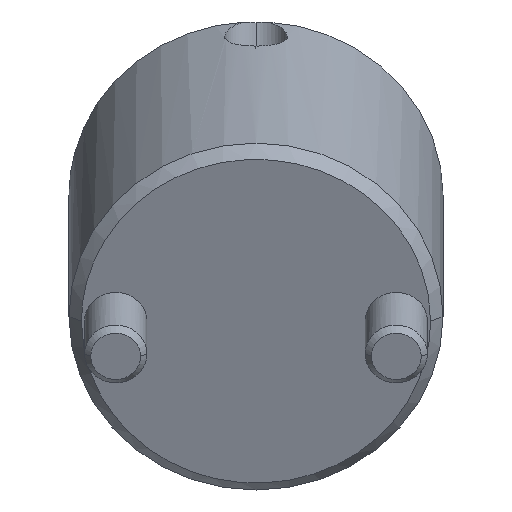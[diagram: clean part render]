
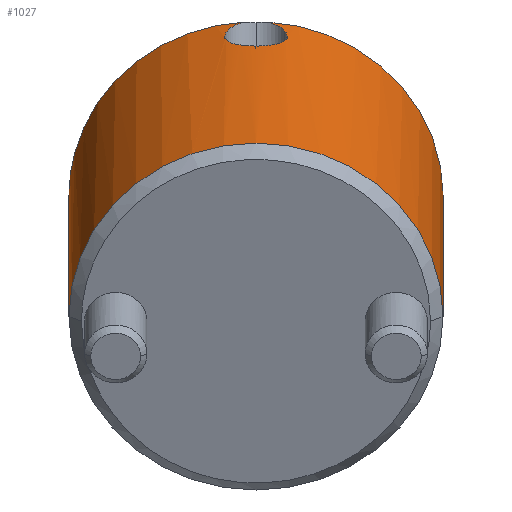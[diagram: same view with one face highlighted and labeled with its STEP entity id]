
A CAD part, front view. The second image highlights one B-rep face of the part: STEP entity #1027.
In plain terms, the highlighted cylindrical face has radius 15 mm (diameter 30 mm), a partial arc.
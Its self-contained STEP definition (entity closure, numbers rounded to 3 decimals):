
#778=CARTESIAN_POINT('Vertex',(0.,15.,1.)) ;
#781=CARTESIAN_POINT('Axis2P3D Location',(0.,0.,1.)) ;
#785=CARTESIAN_POINT('Vertex',(0.,-15.,1.)) ;
#925=CARTESIAN_POINT('Axis2P3D Location',(0.,0.,-1.4)) ;
#931=CARTESIAN_POINT('Control Point',(14.974,-0.881,27.)) ;
#932=CARTESIAN_POINT('Control Point',(14.708,-5.409,27.)) ;
#933=CARTESIAN_POINT('Control Point',(12.734,-9.84,27.)) ;
#934=CARTESIAN_POINT('Control Point',(9.076,-13.29,27.)) ;
#935=CARTESIAN_POINT('Control Point',(4.536,-15.,27.)) ;
#936=CARTESIAN_POINT('Control Point',(0.,-15.,27.)) ;
#937=CARTESIAN_POINT('Vertex',(14.974,-0.881,27.)) ;
#939=CARTESIAN_POINT('Vertex',(0.,-15.,27.)) ;
#942=CARTESIAN_POINT('Line Origine',(0.,-15.,-1.4)) ;
#947=CARTESIAN_POINT('Line Origine',(0.,15.,-1.4)) ;
#951=CARTESIAN_POINT('Vertex',(0.,15.,27.)) ;
#954=CARTESIAN_POINT('Axis2P3D Location',(0.,0.,27.)) ;
#958=CARTESIAN_POINT('Vertex',(14.974,0.881,27.)) ;
#962=CARTESIAN_POINT('Control Point',(14.974,0.881,27.)) ;
#963=CARTESIAN_POINT('Control Point',(14.962,1.094,26.909)) ;
#964=CARTESIAN_POINT('Control Point',(14.946,1.293,26.792)) ;
#965=CARTESIAN_POINT('Control Point',(14.928,1.48,26.65)) ;
#966=CARTESIAN_POINT('Control Point',(14.898,1.76,26.386)) ;
#967=CARTESIAN_POINT('Control Point',(14.868,1.991,26.076)) ;
#968=CARTESIAN_POINT('Control Point',(14.856,2.077,25.943)) ;
#969=CARTESIAN_POINT('Control Point',(14.825,2.291,25.554)) ;
#970=CARTESIAN_POINT('Control Point',(14.8,2.443,25.091)) ;
#971=CARTESIAN_POINT('Control Point',(14.789,2.506,24.767)) ;
#972=CARTESIAN_POINT('Control Point',(14.786,2.526,24.269)) ;
#973=CARTESIAN_POINT('Control Point',(14.801,2.437,23.774)) ;
#974=CARTESIAN_POINT('Control Point',(14.807,2.398,23.62)) ;
#975=CARTESIAN_POINT('Control Point',(14.828,2.27,23.241)) ;
#976=CARTESIAN_POINT('Control Point',(14.856,2.077,22.898)) ;
#977=CARTESIAN_POINT('Control Point',(14.875,1.939,22.708)) ;
#978=CARTESIAN_POINT('Control Point',(14.908,1.679,22.426)) ;
#979=CARTESIAN_POINT('Control Point',(14.938,1.373,22.2)) ;
#980=CARTESIAN_POINT('Control Point',(14.949,1.244,22.119)) ;
#981=CARTESIAN_POINT('Control Point',(14.973,0.932,21.956)) ;
#982=CARTESIAN_POINT('Control Point',(14.99,0.591,21.851)) ;
#983=CARTESIAN_POINT('Control Point',(14.997,0.393,21.809)) ;
#984=CARTESIAN_POINT('Control Point',(15.,0.197,21.791)) ;
#985=CARTESIAN_POINT('Control Point',(15.,0.,21.791)) ;
#986=CARTESIAN_POINT('Vertex',(15.,0.,21.791)) ;
#990=CARTESIAN_POINT('Control Point',(15.,0.,21.791)) ;
#991=CARTESIAN_POINT('Control Point',(15.,-0.15,21.791)) ;
#992=CARTESIAN_POINT('Control Point',(14.998,-0.299,21.802)) ;
#993=CARTESIAN_POINT('Control Point',(14.994,-0.449,21.825)) ;
#994=CARTESIAN_POINT('Control Point',(14.983,-0.748,21.895)) ;
#995=CARTESIAN_POINT('Control Point',(14.965,-1.033,22.009)) ;
#996=CARTESIAN_POINT('Control Point',(14.955,-1.168,22.077)) ;
#997=CARTESIAN_POINT('Control Point',(14.933,-1.431,22.234)) ;
#998=CARTESIAN_POINT('Control Point',(14.908,-1.666,22.43)) ;
#999=CARTESIAN_POINT('Control Point',(14.895,-1.777,22.537)) ;
#1000=CARTESIAN_POINT('Control Point',(14.869,-1.98,22.769)) ;
#1001=CARTESIAN_POINT('Control Point',(14.846,-2.148,23.031)) ;
#1002=CARTESIAN_POINT('Control Point',(14.835,-2.222,23.168)) ;
#1003=CARTESIAN_POINT('Control Point',(14.815,-2.351,23.46)) ;
#1004=CARTESIAN_POINT('Control Point',(14.801,-2.437,23.771)) ;
#1005=CARTESIAN_POINT('Control Point',(14.796,-2.468,23.929)) ;
#1006=CARTESIAN_POINT('Control Point',(14.787,-2.519,24.344)) ;
#1007=CARTESIAN_POINT('Control Point',(14.791,-2.495,24.752)) ;
#1008=CARTESIAN_POINT('Control Point',(14.798,-2.454,24.994)) ;
#1009=CARTESIAN_POINT('Control Point',(14.816,-2.347,25.392)) ;
#1010=CARTESIAN_POINT('Control Point',(14.84,-2.188,25.741)) ;
#1011=CARTESIAN_POINT('Control Point',(14.851,-2.112,25.883)) ;
#1012=CARTESIAN_POINT('Control Point',(14.883,-1.88,26.252)) ;
#1013=CARTESIAN_POINT('Control Point',(14.917,-1.59,26.562)) ;
#1014=CARTESIAN_POINT('Control Point',(14.94,-1.371,26.745)) ;
#1015=CARTESIAN_POINT('Control Point',(14.959,-1.136,26.891)) ;
#1016=CARTESIAN_POINT('Control Point',(14.974,-0.881,27.)) ;
#782=DIRECTION('Axis2P3D Direction',(0.,0.,1.)) ;
#926=DIRECTION('Axis2P3D Direction',(0.,-0.,1.)) ;
#927=DIRECTION('Axis2P3D XDirection',(0.,-1.,0.)) ;
#943=DIRECTION('Vector Direction',(0.,0.,1.)) ;
#948=DIRECTION('Vector Direction',(0.,0.,1.)) ;
#955=DIRECTION('Axis2P3D Direction',(0.,-0.,1.)) ;
#783=AXIS2_PLACEMENT_3D('Circle Axis2P3D',#781,#782,$) ;
#928=AXIS2_PLACEMENT_3D('Cylinder Axis2P3D',#925,#926,#927) ;
#956=AXIS2_PLACEMENT_3D('Circle Axis2P3D',#954,#955,$) ;
#1019=ORIENTED_EDGE('',*,*,#941,.T.) ;
#1020=ORIENTED_EDGE('',*,*,#946,.T.) ;
#1021=ORIENTED_EDGE('',*,*,#787,.F.) ;
#1022=ORIENTED_EDGE('',*,*,#953,.F.) ;
#1023=ORIENTED_EDGE('',*,*,#960,.T.) ;
#1024=ORIENTED_EDGE('',*,*,#988,.T.) ;
#1025=ORIENTED_EDGE('',*,*,#1017,.T.) ;
#944=VECTOR('Line Direction',#943,1.) ;
#949=VECTOR('Line Direction',#948,1.) ;
#1027=ADVANCED_FACE('MANIFOLD_SOLID_BREP #1143',(#1026),#929,.T.) ;
#930=B_SPLINE_CURVE_WITH_KNOTS('',5,(#931,#932,#933,#934,#935,#936),.UNSPECIFIED.,.F.,.U.,(6,6),(-11.34,11.34),.UNSPECIFIED.) ;
#961=B_SPLINE_CURVE_WITH_KNOTS('',5,(#962,#963,#964,#965,#966,#967,#968,#969,#970,#971,#972,#973,#974,#975,#976,#977,#978,#979,#980,#981,#982,#983,#984,#985),.UNSPECIFIED.,.F.,.U.,(6,3,3,3,3,3,3,6),(0.,1.902,3.194,5.398,6.442,7.984,8.999,10.334),.UNSPECIFIED.) ;
#989=B_SPLINE_CURVE_WITH_KNOTS('',5,(#990,#991,#992,#993,#994,#995,#996,#997,#998,#999,#1000,#1001,#1002,#1003,#1004,#1005,#1006,#1007,#1008,#1009,#1010,#1011,#1012,#1013,#1014,#1015,#1016),.UNSPECIFIED.,.F.,.U.,(6,3,3,3,3,3,3,3,6),(0.,1.024,2.05,3.091,4.127,5.182,6.838,8.081,10.324),.UNSPECIFIED.) ;
#784=CIRCLE('generated circle',#783,15.) ;
#957=CIRCLE('generated circle',#956,15.) ;
#929=CYLINDRICAL_SURFACE('generated cylinder',#928,15.) ;
#787=EDGE_CURVE('',#779,#786,#784,.F.) ;
#941=EDGE_CURVE('',#938,#940,#930,.T.) ;
#946=EDGE_CURVE('',#940,#786,#945,.F.) ;
#953=EDGE_CURVE('',#952,#779,#950,.F.) ;
#960=EDGE_CURVE('',#952,#959,#957,.F.) ;
#988=EDGE_CURVE('',#959,#987,#961,.T.) ;
#1017=EDGE_CURVE('',#987,#938,#989,.T.) ;
#1018=EDGE_LOOP('',(#1019,#1020,#1021,#1022,#1023,#1024,#1025)) ;
#1026=FACE_OUTER_BOUND('',#1018,.T.) ;
#945=LINE('Line',#942,#944) ;
#950=LINE('Line',#947,#949) ;
#779=VERTEX_POINT('',#778) ;
#786=VERTEX_POINT('',#785) ;
#938=VERTEX_POINT('',#937) ;
#940=VERTEX_POINT('',#939) ;
#952=VERTEX_POINT('',#951) ;
#959=VERTEX_POINT('',#958) ;
#987=VERTEX_POINT('',#986) ;
